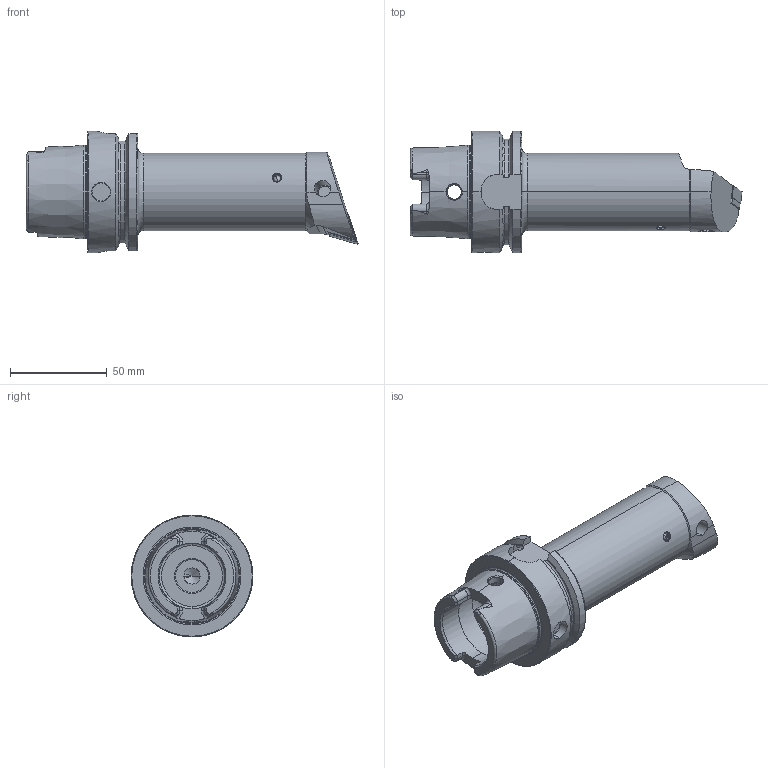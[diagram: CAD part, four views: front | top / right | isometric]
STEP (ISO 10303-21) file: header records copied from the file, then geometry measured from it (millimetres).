
FILE_DESCRIPTION (( 'STEP AP214' ), '1' );
FILE_NAME ('HA6.PDF.RQC.140.STEP', '2020-09-11T06:45:34', ( '' ), ( '' ), 'SwSTEP 2.0', 'SolidWorks 2017', '' );
FILE_SCHEMA (( 'AUTOMOTIVE_DESIGN' ));
Length unit declared in the file: millimetre
Products named in the file (8): KVT_MB_600_050; WDF-ER2.101.003_A; WCD-ER1.101.000; HA6.PDF.RQC.140; DNMG150604; WDF-ER3.101.000_A; WCD-ER4.101.017_A; HA6-PDF.RQC.140_B
Assembly tree (7 placements, depth 2):
  HA6.PDF.RQC.140
    HA6-PDF.RQC.140_B
    KVT_MB_600_050
    WDF-ER3.101.000_A
    WCD-ER4.101.017_A
    WCD-ER1.101.000
    WDF-ER2.101.003_A
    DNMG150604
Bounding box: 171.9 x 63 x 63 mm (x, y, z)
Volume: 201753.4 mm3; surface area: 41600.7 mm2
Topology: 8 solids, 8 shells, 370 faces, 944 edges, 578 vertices
Faces by surface type: plane 118, cylinder 102, cone 92, torus 40, bspline 16, sphere 2
Entity records: 13347 total; most frequent: CARTESIAN_POINT 4219, ORIENTED_EDGE 1854, DIRECTION 1747, EDGE_CURVE 927, AXIS2_PLACEMENT_3D 678, VERTEX_POINT 575, LINE 391, VECTOR 391
